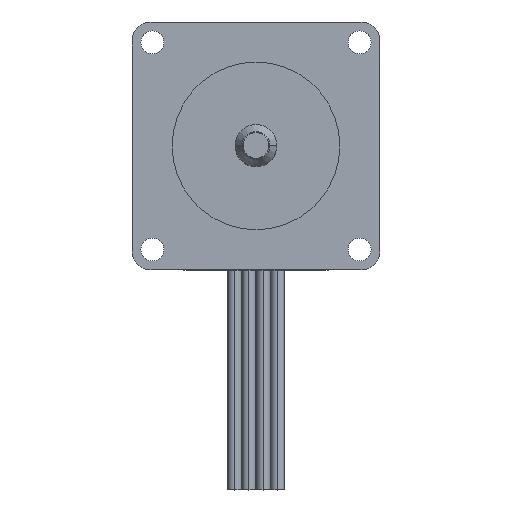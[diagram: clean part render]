
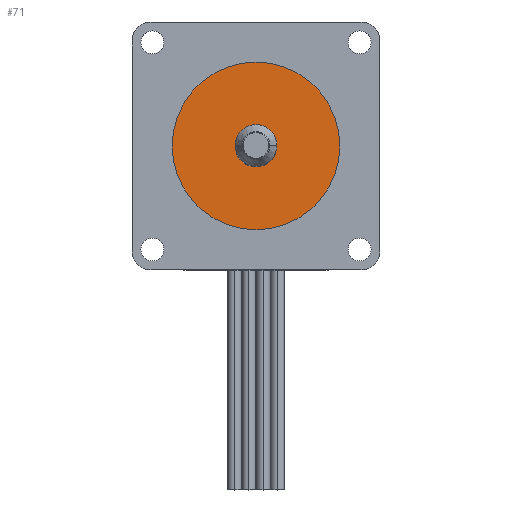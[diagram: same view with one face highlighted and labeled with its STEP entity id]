
A CAD part, top view. The second image highlights one B-rep face of the part: STEP entity #71.
In plain terms, the highlighted planar face has unit normal (0, 0, 1).
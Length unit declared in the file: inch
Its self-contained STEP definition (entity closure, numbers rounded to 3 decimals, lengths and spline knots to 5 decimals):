
#27 = AXIS2_PLACEMENT_3D ( 'NONE', #1854, #3001, #217 ) ;
#36 = CIRCLE ( 'NONE', #2587, 0.751 ) ;
#57 = CARTESIAN_POINT ( 'NONE',  ( 0., 0., 0.05906 ) ) ;
#71 = ADVANCED_FACE ( 'NONE', ( #1019, #746 ), #3494, .T. ) ;
#194 = EDGE_CURVE ( 'NONE', #2438, #2961, #700, .T. ) ;
#217 = DIRECTION ( 'NONE',  ( 1., 0., 0. ) ) ;
#283 = CIRCLE ( 'NONE', #921, 0.751 ) ;
#429 = CIRCLE ( 'NONE', #1405, 0.1875 ) ;
#436 = EDGE_LOOP ( 'NONE', ( #1806, #1827 ) ) ;
#499 = CARTESIAN_POINT ( 'NONE',  ( -0.751, 0., 0.05906 ) ) ;
#553 = EDGE_CURVE ( 'NONE', #2313, #2663, #36, .T. ) ;
#700 = CIRCLE ( 'NONE', #1631, 0.1875 ) ;
#743 = CARTESIAN_POINT ( 'NONE',  ( 0., 0., 0.05906 ) ) ;
#746 = FACE_OUTER_BOUND ( 'NONE', #436, .T. ) ;
#870 = ORIENTED_EDGE ( 'NONE', *, *, #1108, .F. ) ;
#921 = AXIS2_PLACEMENT_3D ( 'NONE', #743, #3526, #2948 ) ;
#1019 = FACE_BOUND ( 'NONE', #2109, .T. ) ;
#1088 = EDGE_CURVE ( 'NONE', #2663, #2313, #283, .T. ) ;
#1108 = EDGE_CURVE ( 'NONE', #2961, #2438, #429, .T. ) ;
#1153 = CARTESIAN_POINT ( 'NONE',  ( 0.751, 0., 0.05906 ) ) ;
#1219 = DIRECTION ( 'NONE',  ( 0., 0., 1. ) ) ;
#1405 = AXIS2_PLACEMENT_3D ( 'NONE', #2428, #1816, #1865 ) ;
#1631 = AXIS2_PLACEMENT_3D ( 'NONE', #57, #1219, #2323 ) ;
#1806 = ORIENTED_EDGE ( 'NONE', *, *, #553, .T. ) ;
#1816 = DIRECTION ( 'NONE',  ( 0., 0., 1. ) ) ;
#1827 = ORIENTED_EDGE ( 'NONE', *, *, #1088, .T. ) ;
#1854 = CARTESIAN_POINT ( 'NONE',  ( 0., 0., 0.05906 ) ) ;
#1865 = DIRECTION ( 'NONE',  ( 1., 0., 0. ) ) ;
#1996 = DIRECTION ( 'NONE',  ( 0., 0., 1. ) ) ;
#2109 = EDGE_LOOP ( 'NONE', ( #3360, #870 ) ) ;
#2313 = VERTEX_POINT ( 'NONE', #499 ) ;
#2323 = DIRECTION ( 'NONE',  ( 1., 0., 0. ) ) ;
#2428 = CARTESIAN_POINT ( 'NONE',  ( 0., 0., 0.05906 ) ) ;
#2438 = VERTEX_POINT ( 'NONE', #3415 ) ;
#2587 = AXIS2_PLACEMENT_3D ( 'NONE', #3107, #1996, #3361 ) ;
#2663 = VERTEX_POINT ( 'NONE', #1153 ) ;
#2692 = CARTESIAN_POINT ( 'NONE',  ( -0.1875, 0., 0.05906 ) ) ;
#2948 = DIRECTION ( 'NONE',  ( 1., 0., 0. ) ) ;
#2961 = VERTEX_POINT ( 'NONE', #2692 ) ;
#3001 = DIRECTION ( 'NONE',  ( 0., 0., 1. ) ) ;
#3107 = CARTESIAN_POINT ( 'NONE',  ( 0., 0., 0.05906 ) ) ;
#3360 = ORIENTED_EDGE ( 'NONE', *, *, #194, .F. ) ;
#3361 = DIRECTION ( 'NONE',  ( 1., 0., 0. ) ) ;
#3415 = CARTESIAN_POINT ( 'NONE',  ( 0.1875, 0., 0.05906 ) ) ;
#3494 = PLANE ( 'NONE',  #27 ) ;
#3526 = DIRECTION ( 'NONE',  ( 0., 0., 1. ) ) ;
